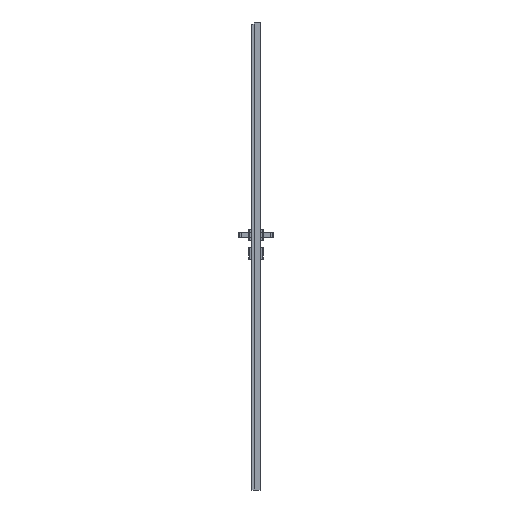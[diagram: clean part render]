
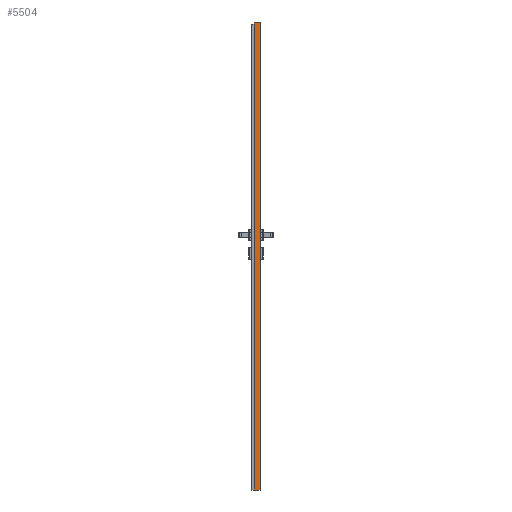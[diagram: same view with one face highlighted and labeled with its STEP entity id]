
A CAD part, left-side view. The second image highlights one B-rep face of the part: STEP entity #5504.
In plain terms, the highlighted planar face has unit normal (-1, 0, 0).
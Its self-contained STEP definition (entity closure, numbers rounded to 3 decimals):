
#5504=ADVANCED_FACE('',(#9142),#7710,.F.);
#7710=PLANE('',#45167);
#9142=FACE_OUTER_BOUND('',#11726,.T.);
#11726=EDGE_LOOP('',(#16384,#16385,#16386,#16387,#16388));
#16384=ORIENTED_EDGE('',*,*,#32148,.T.);
#16385=ORIENTED_EDGE('',*,*,#32149,.T.);
#16386=ORIENTED_EDGE('',*,*,#32057,.F.);
#16387=ORIENTED_EDGE('',*,*,#32135,.F.);
#16388=ORIENTED_EDGE('',*,*,#32145,.T.);
#27485=VERTEX_POINT('',#68577);
#27486=VERTEX_POINT('',#68579);
#27553=VERTEX_POINT('',#68735);
#27561=VERTEX_POINT('',#68756);
#27562=VERTEX_POINT('',#68761);
#32057=EDGE_CURVE('',#27485,#27486,#37937,.T.);
#32135=EDGE_CURVE('',#27553,#27485,#37995,.T.);
#32145=EDGE_CURVE('',#27553,#27561,#38001,.T.);
#32148=EDGE_CURVE('',#27561,#27562,#38004,.T.);
#32149=EDGE_CURVE('',#27562,#27486,#38005,.T.);
#37937=LINE('',#68578,#41407);
#37995=LINE('',#68736,#41465);
#38001=LINE('',#68755,#41471);
#38004=LINE('',#68760,#41474);
#38005=LINE('',#68762,#41475);
#41407=VECTOR('',#51122,1.);
#41465=VECTOR('',#51244,1.);
#41471=VECTOR('',#51262,1.);
#41474=VECTOR('',#51267,1.);
#41475=VECTOR('',#51268,1.);
#45167=AXIS2_PLACEMENT_3D('',#68763,#51269,#51270);
#51122=DIRECTION('',(0.,0.,-1.));
#51244=DIRECTION('',(0.,-1.,0.));
#51262=DIRECTION('',(0.,0.,-1.));
#51267=DIRECTION('',(0.,-1.,0.));
#51268=DIRECTION('',(0.,-0.707,0.707));
#51269=DIRECTION('',(1.,0.,0.));
#51270=DIRECTION('',(0.,0.,-1.));
#68577=CARTESIAN_POINT('',(-319.5,-39.3,2027.));
#68578=CARTESIAN_POINT('',(-319.5,-39.3,2027.));
#68579=CARTESIAN_POINT('',(-319.5,-39.3,2.));
#68735=CARTESIAN_POINT('',(-319.5,-11.5,2027.));
#68736=CARTESIAN_POINT('',(-319.5,-11.5,2027.));
#68755=CARTESIAN_POINT('',(-319.5,-11.5,2027.));
#68756=CARTESIAN_POINT('',(-319.5,-11.5,0.));
#68760=CARTESIAN_POINT('',(-319.5,-11.5,0.));
#68761=CARTESIAN_POINT('',(-319.5,-37.3,0.));
#68762=CARTESIAN_POINT('',(-319.5,-39.3,2.));
#68763=CARTESIAN_POINT('',(-319.5,-11.5,2027.));
